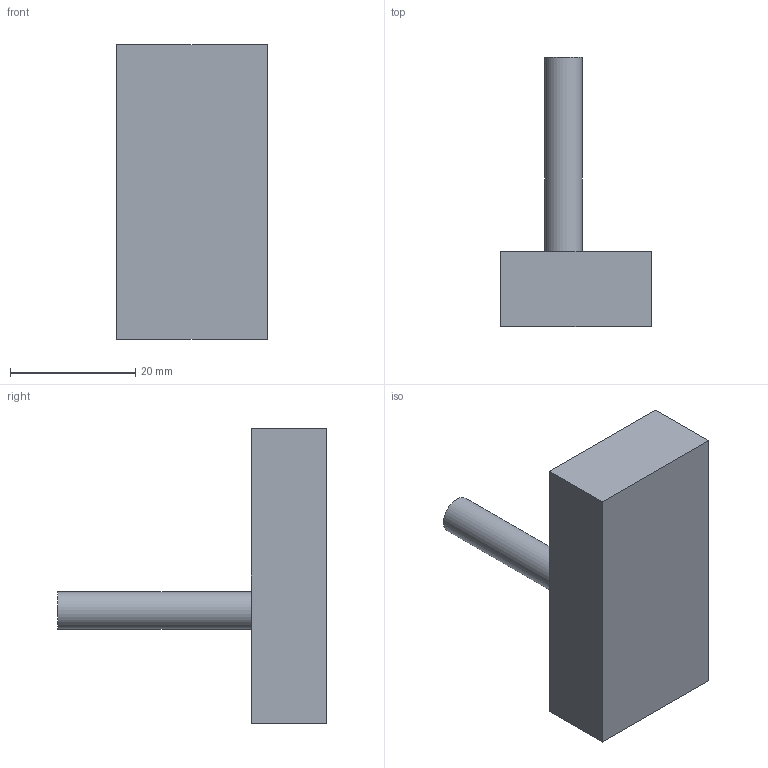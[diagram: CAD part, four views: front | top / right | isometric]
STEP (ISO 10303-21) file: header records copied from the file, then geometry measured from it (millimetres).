
FILE_DESCRIPTION(('Open CASCADE Model'),'2;1');
FILE_NAME('Open CASCADE Shape Model','2026-11-03T04:29:36',('Author'),( 'Open CASCADE'),'Open CASCADE STEP processor 7.8','Open CASCADE 7.8' ,'Unknown');
FILE_SCHEMA(('AUTOMOTIVE_DESIGN { 1 0 10303 214 1 1 1 1 }'));
Length unit declared in the file: millimetre
Products named in the file (1): Open CASCADE STEP translator 7.8 46
Bounding box: 24 x 43 x 47 mm (x, y, z)
Volume: 14412.5 mm3; surface area: 4544.3 mm2
Topology: 1 solids, 1 shells, 8 faces, 15 edges, 10 vertices
Faces by surface type: plane 7, cylinder 1
Full cylindrical faces by diameter (mm): 6 x1
Entity records: 409 total; most frequent: CARTESIAN_POINT 70, DIRECTION 64, LINE 41, VECTOR 41, ORIENTED_EDGE 30, PCURVE 30, DEFINITIONAL_REPRESENTATION 30, EDGE_CURVE 15
